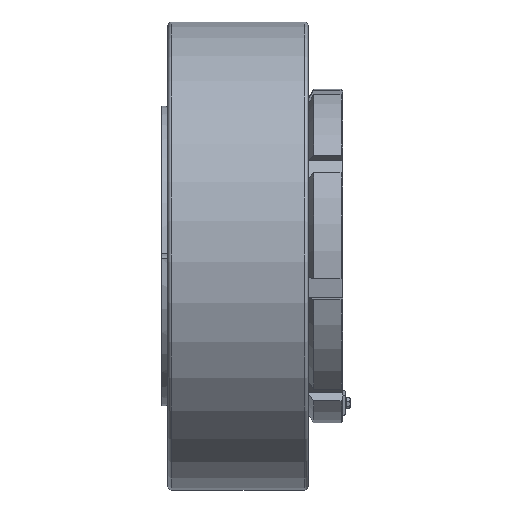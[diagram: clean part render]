
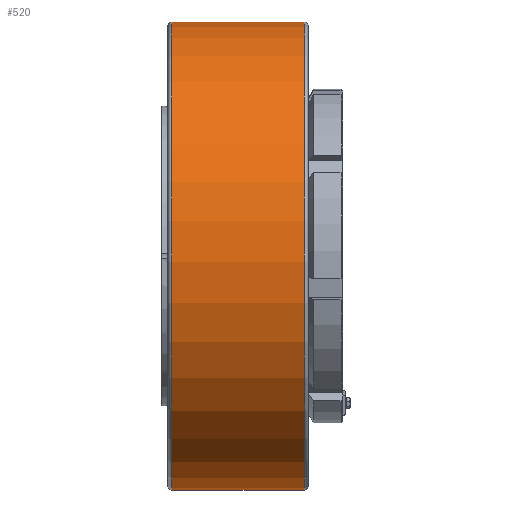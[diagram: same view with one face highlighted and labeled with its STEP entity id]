
A CAD part, front view. The second image highlights one B-rep face of the part: STEP entity #520.
In plain terms, the highlighted cylindrical face has radius 610 mm (diameter 1220 mm), a full revolution.
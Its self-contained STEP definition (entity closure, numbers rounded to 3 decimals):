
#520 = ADVANCED_FACE( '', ( #1169, #1170 ), #1171, .T. );
#1169 = FACE_OUTER_BOUND( '', #1942, .T. );
#1170 = FACE_OUTER_BOUND( '', #1943, .T. );
#1171 = CYLINDRICAL_SURFACE( '', #1944, 610. );
#1942 = EDGE_LOOP( '', ( #4076 ) );
#1943 = EDGE_LOOP( '', ( #4077 ) );
#1944 = AXIS2_PLACEMENT_3D( '', #4078, #4079, #4080 );
#4076 = ORIENTED_EDGE( '', *, *, #5532, .T. );
#4077 = ORIENTED_EDGE( '', *, *, #5546, .F. );
#4078 = CARTESIAN_POINT( '', ( 0., 0., 0. ) );
#4079 = DIRECTION( '', ( -1., 0., 0. ) );
#4080 = DIRECTION( '', ( 0., 0., -1. ) );
#5532 = EDGE_CURVE( '', #6788, #6788, #6789, .T. );
#5546 = EDGE_CURVE( '', #6816, #6816, #6817, .T. );
#6788 = VERTEX_POINT( '', #8837 );
#6789 = CIRCLE( '', #8838, 610. );
#6816 = VERTEX_POINT( '', #8865 );
#6817 = CIRCLE( '', #8866, 610. );
#8837 = CARTESIAN_POINT( '', ( -461.5, 0., -610. ) );
#8838 = AXIS2_PLACEMENT_3D( '', #10408, #10409, #10410 );
#8865 = CARTESIAN_POINT( '', ( -115.5, 0., -610. ) );
#8866 = AXIS2_PLACEMENT_3D( '', #10450, #10451, #10452 );
#10408 = CARTESIAN_POINT( '', ( -461.5, 0., 0. ) );
#10409 = DIRECTION( '', ( 1., 0., 0. ) );
#10410 = DIRECTION( '', ( 0., 0., -1. ) );
#10450 = CARTESIAN_POINT( '', ( -115.5, 0., 0. ) );
#10451 = DIRECTION( '', ( 1., 0., 0. ) );
#10452 = DIRECTION( '', ( 0., 0., -1. ) );
